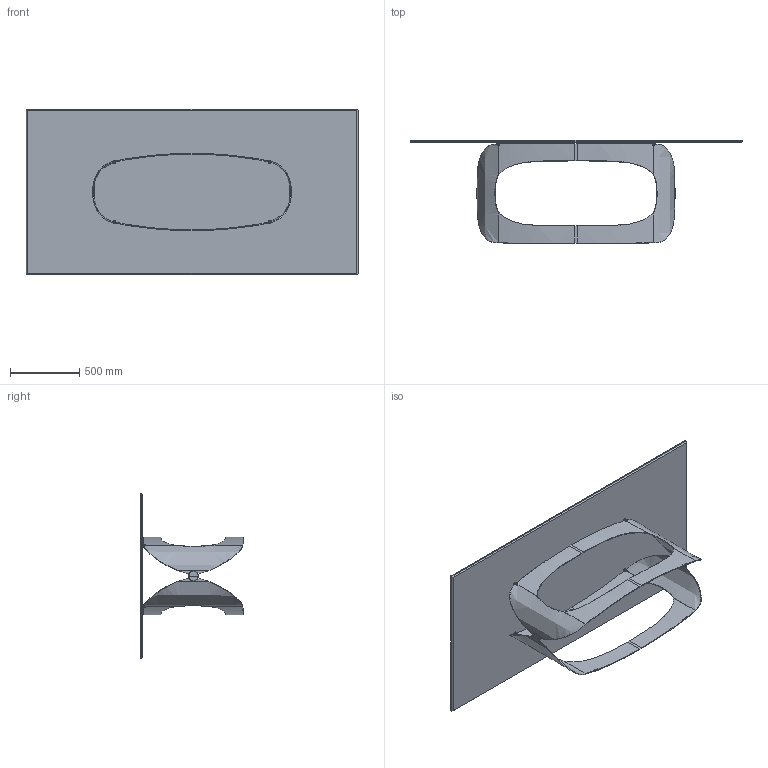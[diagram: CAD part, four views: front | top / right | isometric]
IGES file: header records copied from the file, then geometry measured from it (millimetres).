
Start section: SolidWorks IGES file using analytic representation for surfaces
Global section: file name: Y:\eforma\TECNICO\SOLIDWORKS\E-FORMA\1-TAVOLI\POLIFEMO\02 parts\PO22C.IGS; native system: SolidWorks 2022; preprocessor: SolidWorks 2022; author: eforma.tech; date: 240806.160724; units: millimetre
Bounding box: 2390 x 740.97 x 1190 mm (x, y, z)
Volume: 52495851.8 mm3; surface area: 13983915.5 mm2
Topology: 25 solids, 25 shells, 490 faces, 1216 edges, 782 vertices
Faces by surface type: revolution 245, plane 165, bspline 80
